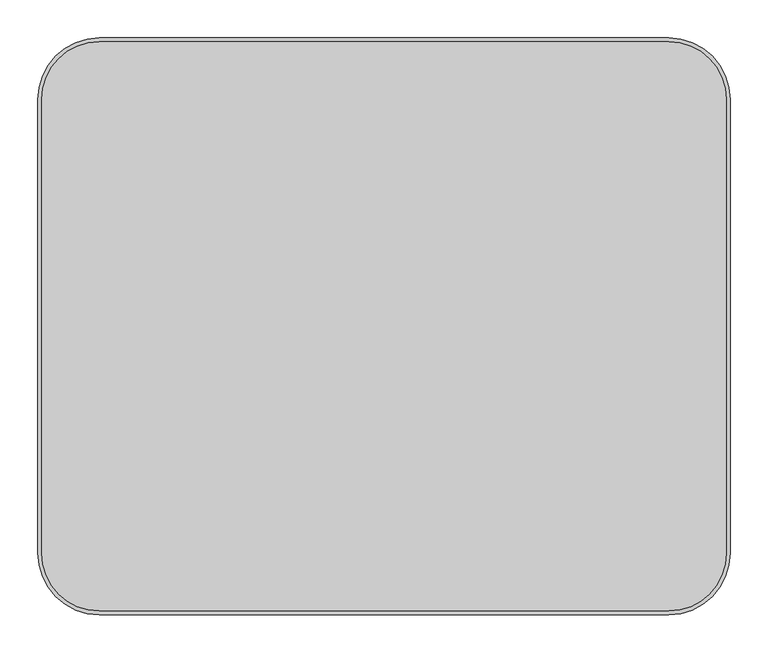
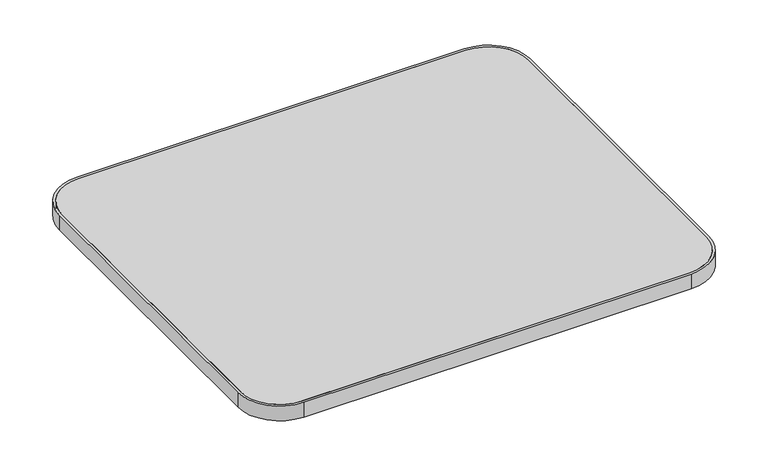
"""IFC4 building model written with IfcOpenShell, lengths in millimetres: furniture geometry, Steelcase - Answer Solution - Universal Table - Straight - 3mm Edge : 30D x 36W."""

import ifcopenshell
import ifcopenshell.guid

model = None  # the IFC model being written
_history = None  # IfcOwnerHistory: only IFC2X3 demands one
_inside = {}  # id of a spatial element -> (the spatial element, [elements in it])
_under = {}  # id of a project, library or spatial element -> (it, [spatial elements below it])
_declared = {}  # id of a project -> (the project, [libraries it declares])
_typed = {}  # id of a type object -> (the type object, [elements of that type])
_made_of = {}  # id of a material, layer set ... -> (it, [elements and type objects made of it])


def new_model(schema):
    """Start an empty IFC model of exactly this schema.

    Asked for "IFC4X3", IfcOpenShell would pick the latest addendum, in which some entities
    have other attributes; the version numbers below select the first issue.
    IFC2X3 requires an IfcOwnerHistory on every rooted entity: one is made here for all.
    """
    global model, _history
    if schema == "IFC4X3":
        model = ifcopenshell.file(schema_version=(4, 3, 0, 0))
    else:
        model = ifcopenshell.file(schema=schema)
    _inside.clear()
    _under.clear()
    _declared.clear()
    _typed.clear()
    _made_of.clear()
    _history = None
    if model.schema == "IFC2X3":
        org = make("IfcOrganization", Name="unknown")
        user = make(
            "IfcPersonAndOrganization",
            ThePerson=make("IfcPerson", FamilyName="unknown"),
            TheOrganization=org,
        )
        app = make(
            "IfcApplication",
            ApplicationDeveloper=org,
            Version="unknown",
            ApplicationFullName="unknown",
            ApplicationIdentifier="unknown",
        )
        _history = make(
            "IfcOwnerHistory",
            OwningUser=user,
            OwningApplication=app,
            ChangeAction="ADDED",
            CreationDate=0,
        )
    return model


def make(cls, **values):
    """One entity of the class cls with the attributes given. An attribute that is None is left unset."""
    return model.create_entity(
        cls, **{name: value for name, value in values.items() if value is not None}
    )


def rooted(cls, **values):
    """An entity with a GlobalId (a new one), such as an element, a storey or a relation."""
    return make(cls, GlobalId=ifcopenshell.guid.new(), OwnerHistory=_history, **values)


def si_unit(unit_type, name, prefix=None):
    """IfcSIUnit, for example si_unit("LENGTHUNIT", "METRE", prefix="MILLI")."""
    return make("IfcSIUnit", UnitType=unit_type, Prefix=prefix, Name=name)


def assignment(units):
    """IfcUnitAssignment: the units of a project."""
    return None if units is None else make("IfcUnitAssignment", Units=units)


def point(xyz):
    """IfcCartesianPoint."""
    return None if xyz is None else make("IfcCartesianPoint", Coordinates=xyz)


def direction(xyz):
    """IfcDirection."""
    return None if xyz is None else make("IfcDirection", DirectionRatios=xyz)


def frame(location, z_axis=None, x_axis=None):
    """IfcAxis2Placement3D, a coordinate frame: its origin and axes. An axis left out is left unset."""
    return make(
        "IfcAxis2Placement3D",
        Location=point(location),
        Axis=direction(z_axis),
        RefDirection=direction(x_axis),
    )


def frame_2d(location, x_axis=None):
    """IfcAxis2Placement2D, a coordinate frame in the plane: its origin and x axis."""
    return make(
        "IfcAxis2Placement2D", Location=point(location), RefDirection=direction(x_axis)
    )


def origin():
    """The frame at (0, 0, 0) with its axes left unset."""
    return frame((0.0, 0.0, 0.0))


def place(relative_to, where):
    """IfcLocalPlacement: puts the frame where relative to a parent placement (None: the world)."""
    return make(
        "IfcLocalPlacement", PlacementRelTo=relative_to, RelativePlacement=where
    )


def context(
    kind, dimensions, precision=None, world=None, true_north=None, identifier=None
):
    """IfcGeometricRepresentationContext, for example the 3D "Model" context."""
    return make(
        "IfcGeometricRepresentationContext",
        ContextIdentifier=identifier,
        ContextType=kind,
        CoordinateSpaceDimension=dimensions,
        Precision=precision,
        WorldCoordinateSystem=world,
        TrueNorth=true_north,
    )


def project(units=None, contexts=None):
    """IfcProject with its units and contexts."""
    return rooted(
        "IfcProject",
        Name="project",
        RepresentationContexts=contexts,
        UnitsInContext=assignment(units),
    )


def spatial(cls, under=None, at=None, **own):
    """A site, building, storey or space (cls), placed at a placement, below another one or the project."""
    s = rooted(cls, ObjectPlacement=at, **own)
    if under is not None:
        _under.setdefault(under.id(), (under, []))[1].append(s)
    return s


def polyline(points):
    """IfcPolyline through the points."""
    return make("IfcPolyline", Points=[point(p) for p in points])


def circle_curve(where, radius):
    """IfcCircle in the frame where."""
    return make("IfcCircle", Position=where, Radius=radius)


def trimmed(basis, trim1, trim2, sense, master):
    """IfcTrimmedCurve: the piece of a basis curve between two trims."""
    return make(
        "IfcTrimmedCurve",
        BasisCurve=basis,
        Trim1=trim1,
        Trim2=trim2,
        SenseAgreement=sense,
        MasterRepresentation=master,
    )


def segment(curve, same_sense, transition):
    """IfcCompositeCurveSegment."""
    return make(
        "IfcCompositeCurveSegment",
        Transition=transition,
        SameSense=same_sense,
        ParentCurve=curve,
    )


def composite_curve(segments, self_intersect=None):
    """IfcCompositeCurve: segments joined end to end."""
    return make("IfcCompositeCurve", Segments=segments, SelfIntersect=self_intersect)


def outline(outer, holes=None, kind="AREA"):
    """IfcArbitraryClosedProfileDef: a profile drawn as a closed curve; with holes, ...WithVoids."""
    if holes is None:
        return make("IfcArbitraryClosedProfileDef", ProfileType=kind, OuterCurve=outer)
    return make(
        "IfcArbitraryProfileDefWithVoids",
        ProfileType=kind,
        OuterCurve=outer,
        InnerCurves=holes,
    )


def extrude(swept, where, along, depth):
    """IfcExtrudedAreaSolid: the profile swept, set in the frame where, extruded along a direction by depth."""
    return make(
        "IfcExtrudedAreaSolid",
        SweptArea=swept,
        Position=where,
        ExtrudedDirection=direction(along),
        Depth=depth,
    )


def shape(context_of_items, identifier, shape_type, items):
    """IfcShapeRepresentation: the items that make up one representation, for example the "Body"."""
    return make(
        "IfcShapeRepresentation",
        ContextOfItems=context_of_items,
        RepresentationIdentifier=identifier,
        RepresentationType=shape_type,
        Items=items,
    )


def source(mapping_origin, context_of_items, identifier, shape_type, items):
    """IfcRepresentationMap: a shape defined once, which mapped items show again and again."""
    return make(
        "IfcRepresentationMap",
        MappingOrigin=mapping_origin,
        MappedRepresentation=shape(context_of_items, identifier, shape_type, items),
    )


def transform(
    local_origin,
    x_axis=None,
    y_axis=None,
    z_axis=None,
    scale=None,
    scale2=None,
    scale3=None,
    uniform=True,
):
    """IfcCartesianTransformationOperator3D, or its non-uniform kind. x_axis, y_axis, z_axis: its Axis1, 2, 3."""
    if uniform:
        return make(
            "IfcCartesianTransformationOperator3D",
            Axis1=direction(x_axis),
            Axis2=direction(y_axis),
            LocalOrigin=point(local_origin),
            Scale=scale,
            Axis3=direction(z_axis),
        )
    return make(
        "IfcCartesianTransformationOperator3DnonUniform",
        Axis1=direction(x_axis),
        Axis2=direction(y_axis),
        LocalOrigin=point(local_origin),
        Scale=scale,
        Axis3=direction(z_axis),
        Scale2=scale2,
        Scale3=scale3,
    )


def mapped(mapping_source, mapping_target):
    """IfcMappedItem: shows the shape of a source again, moved by a transform."""
    return make(
        "IfcMappedItem", MappingSource=mapping_source, MappingTarget=mapping_target
    )


def made_of(thing, what):
    """Note that an element or type object is made of a material, layer set ...; save() writes the relation."""
    if what is not None:
        _made_of.setdefault(what.id(), (what, []))[1].append(thing)
    return thing


def element(
    cls,
    number,
    at=None,
    inside=None,
    cuts=None,
    type_object=None,
    material=None,
    context=None,
    identifier="Body",
    shape_type=None,
    held_by="IfcProductDefinitionShape",
    body=None,
    shapes=None,
    **own,
):
    """One element of the class cls, such as IfcWall. Its Tag is "e" and its number.

    at: its placement. inside: the storey or other place that contains it. cuts: it is an
    opening in that element (IfcRelVoidsElement). A single representation is given by context,
    identifier, shape_type and body (its items); several are given by shapes. held_by: the class
    of the entity that holds the representations. save() writes the other relations.
    """
    e = rooted(cls, Tag="e%d" % number, ObjectPlacement=at, **own)
    if body is not None:
        shapes = [shape(context, identifier, shape_type, body)]
    if shapes is not None:
        e.Representation = make(held_by, Representations=shapes)
    if inside is not None:
        _inside.setdefault(inside.id(), (inside, []))[1].append(e)
    if cuts is not None:
        rooted(
            "IfcRelVoidsElement", RelatingBuildingElement=cuts, RelatedOpeningElement=e
        )
    if type_object is not None:
        _typed.setdefault(type_object.id(), (type_object, []))[1].append(e)
    return made_of(e, material)


def aggregate(whole, parts):
    """IfcRelAggregates: a whole, such as a stair, and the parts it consists of."""
    return rooted("IfcRelAggregates", RelatingObject=whole, RelatedObjects=parts)


def save(model, path):
    """Write the relations noted so far, then the file.

    IfcRelAggregates (storeys below a building ...), IfcRelContainedInSpatialStructure (elements
    in a storey), IfcRelDefinesByType, IfcRelAssociatesMaterial and IfcRelDeclares: one each for
    every whole, place, type object, material and project.
    """
    for whole, parts in _under.values():
        aggregate(whole, parts)
    for where, things in _inside.values():
        rooted(
            "IfcRelContainedInSpatialStructure",
            RelatedElements=things,
            RelatingStructure=where,
        )
    for kind, things in _typed.values():
        rooted("IfcRelDefinesByType", RelatedObjects=things, RelatingType=kind)
    for what, things in _made_of.values():
        rooted("IfcRelAssociatesMaterial", RelatedObjects=things, RelatingMaterial=what)
    for by, libraries in _declared.values():
        rooted("IfcRelDeclares", RelatingContext=by, RelatedDefinitions=libraries)
    model.write(path)


def furniture_001bb3ce(model_context):
    return source(origin(), model_context, "Body", "SweptSolid", [
        extrude(outline(composite_curve([segment(polyline([(5.08, -680.72), (5.08, -81.28)]), True, "CONTINUOUS"), segment(trimmed(circle_curve(frame_2d((81.28, -81.28)), 76.2), [point((5.08, -81.28))], [point((81.28, -5.08))], False, "CARTESIAN"), True, "CONTINUOUS"), segment(polyline([(81.28, -5.08), (833.12, -5.08)]), True, "CONTINUOUS"), segment(trimmed(circle_curve(frame_2d((833.12, -81.28)), 76.2), [point((833.12, -5.08))], [point((909.32, -81.28))], False, "CARTESIAN"), True, "CONTINUOUS"), segment(polyline([(909.32, -81.28), (909.32, -680.72)]), True, "CONTINUOUS"), segment(trimmed(circle_curve(frame_2d((833.12, -680.72)), 76.2), [point((909.32, -680.72))], [point((833.12, -756.92))], False, "CARTESIAN"), True, "CONTINUOUS"), segment(polyline([(833.12, -756.92), (81.28, -756.92)]), True, "CONTINUOUS"), segment(trimmed(circle_curve(frame_2d((81.28, -680.72)), 76.2), [point((81.28, -756.92))], [point((5.08, -680.72))], False, "CARTESIAN"), True, "CONTINUOUS")], self_intersect=False)), frame((0.0, 0.0, 668.274), z_axis=(0.0, 0.0, 1.0), x_axis=(1.0, 0.0, 0.0)), (0.0, 0.0, 1.0), 30.0990349),
        extrude(outline(composite_curve([segment(polyline([(81.28, 0.0), (833.12, 0.0)]), True, "CONTINUOUS"), segment(trimmed(circle_curve(frame_2d((833.12, -81.28)), 81.28), [point((833.12, 0.0))], [point((914.4, -81.28))], False, "CARTESIAN"), True, "CONTINUOUS"), segment(polyline([(914.4, -81.28), (914.4, -680.72)]), True, "CONTINUOUS"), segment(trimmed(circle_curve(frame_2d((833.12, -680.72)), 81.28), [point((914.4, -680.72))], [point((833.12, -762.0))], False, "CARTESIAN"), True, "CONTINUOUS"), segment(polyline([(833.12, -762.0), (81.28, -762.0)]), True, "CONTINUOUS"), segment(trimmed(circle_curve(frame_2d((81.28, -680.72)), 81.28), [point((81.28, -762.0))], [point((0.0, -680.72))], False, "CARTESIAN"), True, "CONTINUOUS"), segment(polyline([(0.0, -680.72), (0.0, -81.28)]), True, "CONTINUOUS"), segment(trimmed(circle_curve(frame_2d((81.28, -81.28)), 81.28), [point((0.0, -81.28))], [point((81.28, 0.0))], False, "CARTESIAN"), True, "CONTINUOUS")], self_intersect=False), holes=[composite_curve([segment(trimmed(circle_curve(frame_2d((81.28, -81.28)), 76.2), [point((81.28, -5.08))], [point((5.08, -81.28))], True, "CARTESIAN"), True, "CONTINUOUS"), segment(polyline([(5.08, -81.28), (5.08, -680.72)]), True, "CONTINUOUS"), segment(trimmed(circle_curve(frame_2d((81.28, -680.72)), 76.2), [point((5.08, -680.72))], [point((81.28, -756.92))], True, "CARTESIAN"), True, "CONTINUOUS"), segment(polyline([(81.28, -756.92), (833.12, -756.92)]), True, "CONTINUOUS"), segment(trimmed(circle_curve(frame_2d((833.12, -680.72)), 76.2), [point((833.12, -756.92))], [point((909.32, -680.72))], True, "CARTESIAN"), True, "CONTINUOUS"), segment(polyline([(909.32, -680.72), (909.32, -81.28)]), True, "CONTINUOUS"), segment(trimmed(circle_curve(frame_2d((833.12, -81.28)), 76.2), [point((909.32, -81.28))], [point((833.12, -5.08))], True, "CARTESIAN"), True, "CONTINUOUS"), segment(polyline([(833.12, -5.08), (81.28, -5.08)]), True, "CONTINUOUS")], self_intersect=False)]), frame((0.0, 0.0, 668.274), z_axis=(0.0, 0.0, 1.0), x_axis=(1.0, 0.0, 0.0)), (0.0, 0.0, 1.0), 30.0990349),
    ])


if __name__ == "__main__":
    model = new_model("IFC4")
    model_context = context("Model", 3, world=origin())
    ifc_project = project(units=[si_unit("LENGTHUNIT", "METRE", prefix="MILLI")], contexts=[model_context])
    site = spatial("IfcSite", under=ifc_project)
    building = spatial("IfcBuilding", under=site)
    placement = place(None, origin())
    furniture_shape = furniture_001bb3ce(model_context)
    element("IfcFurniture", 1, ObjectType="Steelcase - Answer Solution - Universal Table - Straight - 3mm Edge : 30D x 36W", at=placement, inside=building, context=model_context, shape_type="MappedRepresentation", body=[
        mapped(furniture_shape, transform((0.0, 0.0, 0.0), x_axis=(1.0, 0.0, 0.0), y_axis=(0.0, 1.0, 0.0), z_axis=(0.0, 0.0, 1.0))),
    ])
    save(model, "model.ifc")
